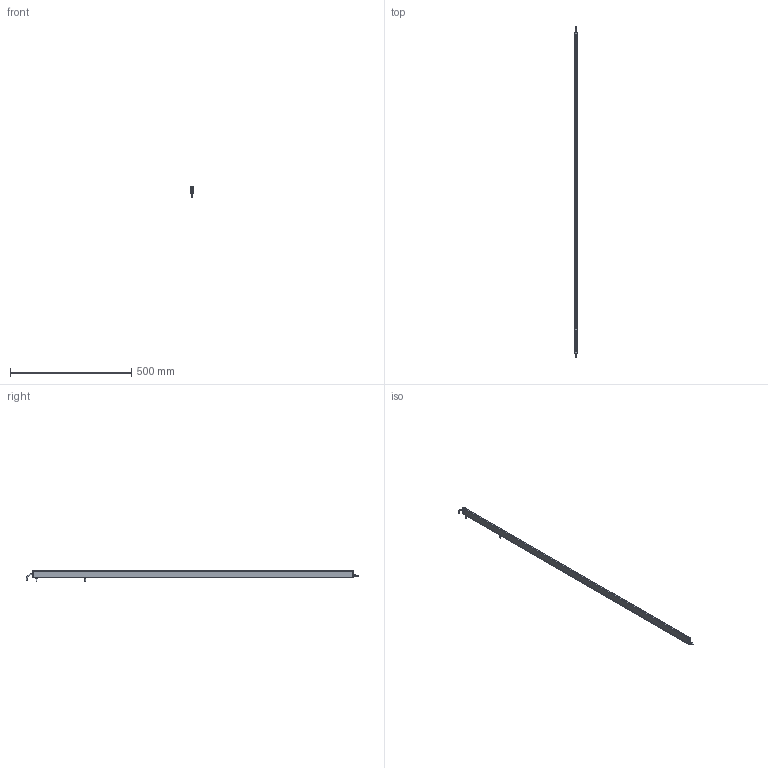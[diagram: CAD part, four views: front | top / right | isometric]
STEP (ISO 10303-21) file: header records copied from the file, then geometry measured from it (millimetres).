
FILE_DESCRIPTION (( 'STEP AP214' ), '1' );
FILE_NAME ('ILG-B-K1-1320mm.STEP', '2017-07-10T12:10:33', ( '' ), ( '' ), 'SwSTEP 2.0', 'SolidWorks 2016', '' );
FILE_SCHEMA (( 'AUTOMOTIVE_DESIGN' ));
Length unit declared in the file: millimetre
Products named in the file (1): ILG-B-K1-1320mm
Bounding box: 9 x 1368.25 x 46.21 mm (x, y, z)
Volume: 149302.1 mm3; surface area: 219597.7 mm2
Topology: 11 solids, 11 shells, 453 faces, 1150 edges, 724 vertices
Faces by surface type: plane 216, cylinder 152, cone 73, torus 12
Entity records: 18769 total; most frequent: CARTESIAN_POINT 2540, DIRECTION 2424, ORIENTED_EDGE 2284, EDGE_CURVE 1142, AXIS2_PLACEMENT_3D 896, VERTEX_POINT 724, VECTOR 632, LINE 632
